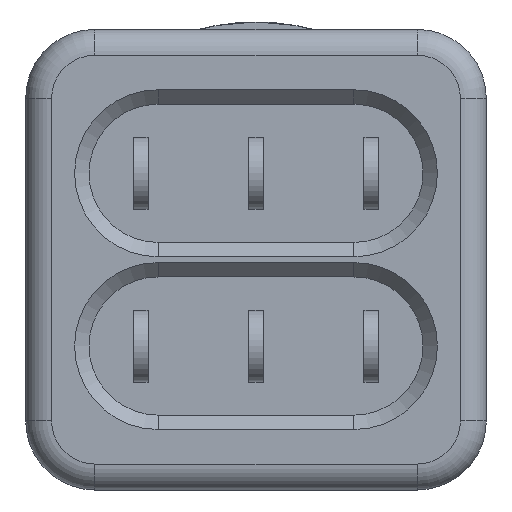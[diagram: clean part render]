
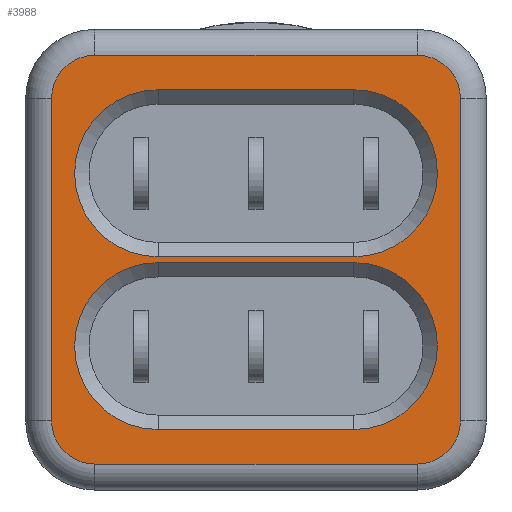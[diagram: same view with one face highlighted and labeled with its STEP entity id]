
A CAD part, front view. The second image highlights one B-rep face of the part: STEP entity #3988.
In plain terms, the highlighted planar face has unit normal (0, -1, 0).
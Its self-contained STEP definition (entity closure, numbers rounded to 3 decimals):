
#260=CARTESIAN_POINT('',(-5.6,-7.4,5.6));
#261=DIRECTION('',(0.,-1.,0.));
#262=DIRECTION('',(0.,0.,1.));
#263=AXIS2_PLACEMENT_3D('',#260,#261,#262);
#265=DIRECTION('',(-1.,0.,0.));
#266=VECTOR('',#265,11.2);
#267=CARTESIAN_POINT('',(5.6,-7.4,7.1));
#268=LINE('',#267,#266);
#269=CARTESIAN_POINT('',(5.6,-7.4,5.6));
#270=DIRECTION('',(0.,-1.,0.));
#271=DIRECTION('',(1.,0.,0.));
#272=AXIS2_PLACEMENT_3D('',#269,#270,#271);
#274=DIRECTION('',(0.,0.,1.));
#275=VECTOR('',#274,11.2);
#276=CARTESIAN_POINT('',(7.1,-7.4,-5.6));
#277=LINE('',#276,#275);
#278=CARTESIAN_POINT('',(5.6,-7.4,-5.6));
#279=DIRECTION('',(0.,-1.,0.));
#280=DIRECTION('',(0.,0.,-1.));
#281=AXIS2_PLACEMENT_3D('',#278,#279,#280);
#283=DIRECTION('',(1.,0.,0.));
#284=VECTOR('',#283,11.2);
#285=CARTESIAN_POINT('',(-5.6,-7.4,-7.1));
#286=LINE('',#285,#284);
#287=CARTESIAN_POINT('',(-5.6,-7.4,-5.6));
#288=DIRECTION('',(0.,-1.,0.));
#289=DIRECTION('',(-1.,0.,0.));
#290=AXIS2_PLACEMENT_3D('',#287,#288,#289);
#292=DIRECTION('',(0.,0.,-1.));
#293=VECTOR('',#292,11.2);
#294=CARTESIAN_POINT('',(-7.1,-7.4,5.6));
#295=LINE('',#294,#293);
#296=DIRECTION('',(-1.,0.,0.));
#297=VECTOR('',#296,6.8);
#298=CARTESIAN_POINT('',(3.4,-7.4,0.1));
#299=LINE('',#298,#297);
#300=CARTESIAN_POINT('',(3.4,-7.4,3.));
#301=DIRECTION('',(0.,1.,0.));
#302=DIRECTION('',(0.,0.,1.));
#303=AXIS2_PLACEMENT_3D('',#300,#301,#302);
#305=DIRECTION('',(1.,0.,0.));
#306=VECTOR('',#305,6.8);
#307=CARTESIAN_POINT('',(-3.4,-7.4,5.9));
#308=LINE('',#307,#306);
#309=CARTESIAN_POINT('',(-3.4,-7.4,3.));
#310=DIRECTION('',(0.,1.,0.));
#311=DIRECTION('',(0.,0.,-1.));
#312=AXIS2_PLACEMENT_3D('',#309,#310,#311);
#314=DIRECTION('',(-1.,0.,0.));
#315=VECTOR('',#314,6.8);
#316=CARTESIAN_POINT('',(3.4,-7.4,-5.9));
#317=LINE('',#316,#315);
#318=CARTESIAN_POINT('',(3.4,-7.4,-3.));
#319=DIRECTION('',(0.,1.,0.));
#320=DIRECTION('',(0.,0.,1.));
#321=AXIS2_PLACEMENT_3D('',#318,#319,#320);
#323=DIRECTION('',(1.,0.,0.));
#324=VECTOR('',#323,6.8);
#325=CARTESIAN_POINT('',(-3.4,-7.4,
-0.1));
#326=LINE('',#325,#324);
#327=CARTESIAN_POINT('',(-3.4,-7.4,-3.));
#328=DIRECTION('',(0.,1.,0.));
#329=DIRECTION('',(0.,0.,-1.));
#330=AXIS2_PLACEMENT_3D('',#327,#328,#329);
#3373=CARTESIAN_POINT('',(-5.6,-7.4,7.1));
#3374=CARTESIAN_POINT('',(-7.1,-7.4,5.6));
#3375=VERTEX_POINT('',#3373);
#3376=VERTEX_POINT('',#3374);
#3381=CARTESIAN_POINT('',(-7.1,-7.4,-5.6));
#3382=VERTEX_POINT('',#3381);
#3385=CARTESIAN_POINT('',(-5.6,-7.4,-7.1));
#3386=VERTEX_POINT('',#3385);
#3389=CARTESIAN_POINT('',(5.6,-7.4,-7.1));
#3390=VERTEX_POINT('',#3389);
#3393=CARTESIAN_POINT('',(7.1,-7.4,-5.6));
#3394=VERTEX_POINT('',#3393);
#3397=CARTESIAN_POINT('',(7.1,-7.4,5.6));
#3398=VERTEX_POINT('',#3397);
#3401=CARTESIAN_POINT('',(5.6,-7.4,7.1));
#3402=VERTEX_POINT('',#3401);
#3437=CARTESIAN_POINT('',(3.4,-7.4,
0.1));
#3438=CARTESIAN_POINT('',(-3.4,-7.4,
0.1));
#3439=VERTEX_POINT('',#3437);
#3440=VERTEX_POINT('',#3438);
#3441=CARTESIAN_POINT('',(-3.4,-7.4,5.9));
#3442=VERTEX_POINT('',#3441);
#3443=CARTESIAN_POINT('',(3.4,-7.4,5.9));
#3444=VERTEX_POINT('',#3443);
#3445=CARTESIAN_POINT('',(3.4,-7.4,
-5.9));
#3446=CARTESIAN_POINT('',(-3.4,-7.4,
-5.9));
#3447=VERTEX_POINT('',#3445);
#3448=VERTEX_POINT('',#3446);
#3449=CARTESIAN_POINT('',(-3.4,-7.4,-0.1));
#3450=VERTEX_POINT('',#3449);
#3451=CARTESIAN_POINT('',(3.4,-7.4,
-0.1));
#3452=VERTEX_POINT('',#3451);
#3946=CARTESIAN_POINT('',(0.,-7.4,0.));
#3947=DIRECTION('',(0.,-1.,0.));
#3948=DIRECTION('',(1.,0.,0.));
#3949=AXIS2_PLACEMENT_3D('',#3946,#3947,#3948);
#3950=PLANE('',#3949);
#3952=ORIENTED_EDGE('',*,*,#3951,.F.);
#3954=ORIENTED_EDGE('',*,*,#3953,.F.);
#3955=ORIENTED_EDGE('',*,*,#3936,.F.);
#3957=ORIENTED_EDGE('',*,*,#3956,.F.);
#3959=ORIENTED_EDGE('',*,*,#3958,.F.);
#3961=ORIENTED_EDGE('',*,*,#3960,.F.);
#3963=ORIENTED_EDGE('',*,*,#3962,.F.);
#3965=ORIENTED_EDGE('',*,*,#3964,.F.);
#3966=EDGE_LOOP('',(#3952,#3954,#3955,#3957,#3959,#3961,#3963,#3965));
#3967=FACE_OUTER_BOUND('',#3966,.F.);
#3969=ORIENTED_EDGE('',*,*,#3968,.F.);
#3971=ORIENTED_EDGE('',*,*,#3970,.F.);
#3973=ORIENTED_EDGE('',*,*,#3972,.F.);
#3975=ORIENTED_EDGE('',*,*,#3974,.F.);
#3976=EDGE_LOOP('',(#3969,#3971,#3973,#3975));
#3977=FACE_BOUND('',#3976,.F.);
#3979=ORIENTED_EDGE('',*,*,#3978,.F.);
#3981=ORIENTED_EDGE('',*,*,#3980,.F.);
#3983=ORIENTED_EDGE('',*,*,#3982,.F.);
#3985=ORIENTED_EDGE('',*,*,#3984,.F.);
#3986=EDGE_LOOP('',(#3979,#3981,#3983,#3985));
#3987=FACE_BOUND('',#3986,.F.);
#264=CIRCLE('',#263,1.5);
#273=CIRCLE('',#272,1.5);
#282=CIRCLE('',#281,1.5);
#291=CIRCLE('',#290,1.5);
#304=CIRCLE('',#303,2.9);
#313=CIRCLE('',#312,2.9);
#322=CIRCLE('',#321,2.9);
#331=CIRCLE('',#330,2.9);
#3936=EDGE_CURVE('',#3398,#3402,#273,.T.);
#3951=EDGE_CURVE('',#3375,#3376,#264,.T.);
#3953=EDGE_CURVE('',#3402,#3375,#268,.T.);
#3956=EDGE_CURVE('',#3394,#3398,#277,.T.);
#3958=EDGE_CURVE('',#3390,#3394,#282,.T.);
#3960=EDGE_CURVE('',#3386,#3390,#286,.T.);
#3962=EDGE_CURVE('',#3382,#3386,#291,.T.);
#3964=EDGE_CURVE('',#3376,#3382,#295,.T.);
#3968=EDGE_CURVE('',#3439,#3440,#299,.T.);
#3970=EDGE_CURVE('',#3444,#3439,#304,.T.);
#3972=EDGE_CURVE('',#3442,#3444,#308,.T.);
#3974=EDGE_CURVE('',#3440,#3442,#313,.T.);
#3978=EDGE_CURVE('',#3447,#3448,#317,.T.);
#3980=EDGE_CURVE('',#3452,#3447,#322,.T.);
#3982=EDGE_CURVE('',#3450,#3452,#326,.T.);
#3984=EDGE_CURVE('',#3448,#3450,#331,.T.);
#3988=ADVANCED_FACE('',(#3967,#3977,#3987),#3950,.T.);
